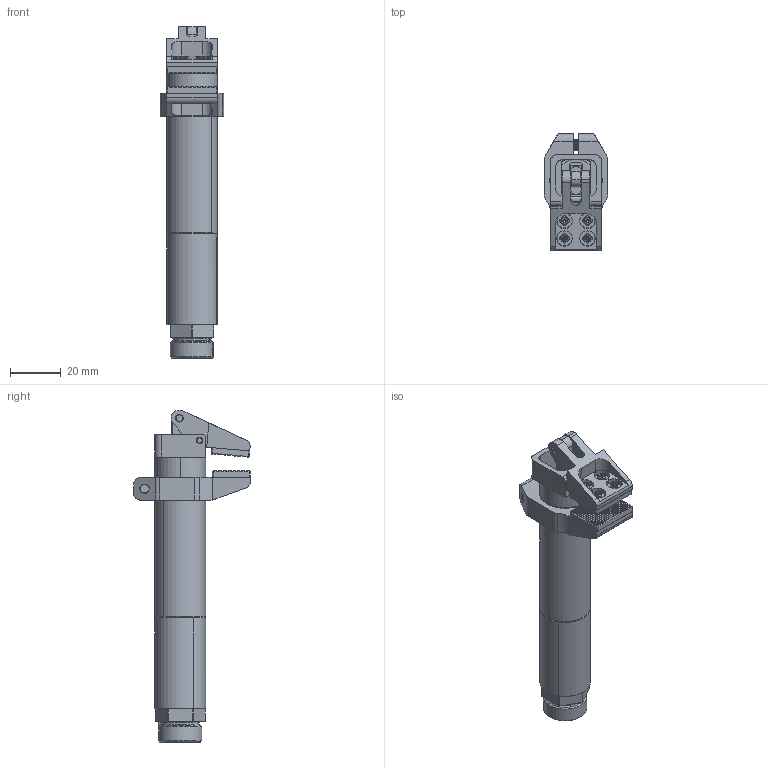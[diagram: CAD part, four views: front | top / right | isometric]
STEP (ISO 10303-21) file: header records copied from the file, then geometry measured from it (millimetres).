
FILE_DESCRIPTION (( 'STEP AP214' ), '1' );
FILE_NAME ('GFR20-95SG.STEP', '2019-11-20T01:47:06', ( '微软用户' ), ( '微软中国' ), 'SwSTEP 2.0', 'SolidWorks 2016', '' );
FILE_SCHEMA (( 'AUTOMOTIVE_DESIGN' ));
Length unit declared in the file: millimetre
Products named in the file (1): GFR20-95SG
Bounding box: 25 x 46 x 130.57 mm (x, y, z)
Volume: 34847.3 mm3; surface area: 29247 mm2
Topology: 16 solids, 16 shells, 4325 faces, 9376 edges, 5113 vertices
Faces by surface type: plane 3396, cylinder 461, torus 208, cone 192, bspline 66, sphere 2
Entity records: 168647 total; most frequent: CARTESIAN_POINT 29062, DIRECTION 18842, ORIENTED_EDGE 18736, EDGE_CURVE 9368, VECTOR 7450, LINE 7450, AXIS2_PLACEMENT_3D 5696, VERTEX_POINT 5111
